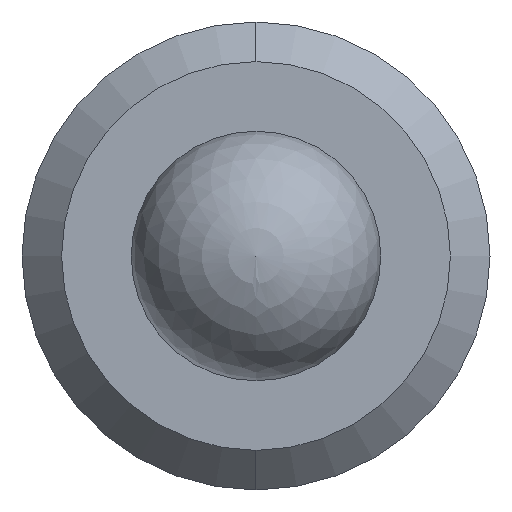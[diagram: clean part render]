
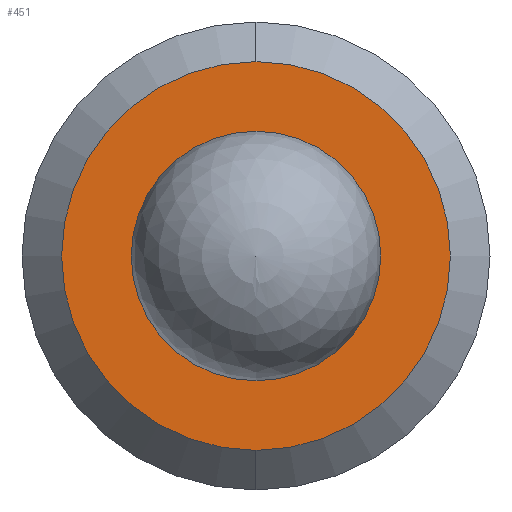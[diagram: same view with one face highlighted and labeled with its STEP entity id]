
A CAD part, left-side view. The second image highlights one B-rep face of the part: STEP entity #451.
In plain terms, the highlighted planar face has unit normal (-1, 0, 0).
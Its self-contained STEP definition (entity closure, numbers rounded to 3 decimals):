
#25 = AXIS2_PLACEMENT_3D ( 'NONE', #380, #351, #410 ) ;
#30 = FACE_BOUND ( 'NONE', #167, .T. ) ;
#67 = FACE_OUTER_BOUND ( 'NONE', #470, .T. ) ;
#82 = CARTESIAN_POINT ( 'NONE',  ( 0., 0., -0.8 ) ) ;
#85 = EDGE_CURVE ( 'NONE', #482, #173, #440, .T. ) ;
#95 = DIRECTION ( 'NONE',  ( -1., 0., 0. ) ) ;
#98 = CARTESIAN_POINT ( 'NONE',  ( 0., 0., 0. ) ) ;
#135 = CARTESIAN_POINT ( 'NONE',  ( 0., 0., 0.8 ) ) ;
#146 = ORIENTED_EDGE ( 'NONE', *, *, #338, .F. ) ;
#147 = ORIENTED_EDGE ( 'NONE', *, *, #85, .F. ) ;
#150 = AXIS2_PLACEMENT_3D ( 'NONE', #98, #95, #420 ) ;
#156 = ORIENTED_EDGE ( 'NONE', *, *, #314, .T. ) ;
#158 = ORIENTED_EDGE ( 'NONE', *, *, #348, .T. ) ;
#160 = CARTESIAN_POINT ( 'NONE',  ( 0., 0., 0. ) ) ;
#167 = EDGE_LOOP ( 'NONE', ( #146, #147 ) ) ;
#173 = VERTEX_POINT ( 'NONE', #135 ) ;
#174 = DIRECTION ( 'NONE',  ( -1., 0., 0. ) ) ;
#176 = AXIS2_PLACEMENT_3D ( 'NONE', #217, #235, #221 ) ;
#179 = CARTESIAN_POINT ( 'NONE',  ( 0., 0., 1.246 ) ) ;
#194 = AXIS2_PLACEMENT_3D ( 'NONE', #387, #385, #503 ) ;
#210 = VERTEX_POINT ( 'NONE', #179 ) ;
#217 = CARTESIAN_POINT ( 'NONE',  ( 0., 0., 0. ) ) ;
#221 = DIRECTION ( 'NONE',  ( 0., 0., 1. ) ) ;
#235 = DIRECTION ( 'NONE',  ( -1., 0., 0. ) ) ;
#246 = CIRCLE ( 'NONE', #150, 1.246 ) ;
#264 = DIRECTION ( 'NONE',  ( 0., 0., 1. ) ) ;
#291 = AXIS2_PLACEMENT_3D ( 'NONE', #160, #174, #264 ) ;
#314 = EDGE_CURVE ( 'NONE', #578, #210, #331, .T. ) ;
#319 = CIRCLE ( 'NONE', #176, 0.8 ) ;
#331 = CIRCLE ( 'NONE', #194, 1.246 ) ;
#338 = EDGE_CURVE ( 'NONE', #173, #482, #319, .T. ) ;
#348 = EDGE_CURVE ( 'NONE', #210, #578, #246, .T. ) ;
#351 = DIRECTION ( 'NONE',  ( 1., 0., 0. ) ) ;
#355 = PLANE ( 'NONE',  #25 ) ;
#380 = CARTESIAN_POINT ( 'NONE',  ( 0., 0., 0. ) ) ;
#385 = DIRECTION ( 'NONE',  ( -1., 0., 0. ) ) ;
#387 = CARTESIAN_POINT ( 'NONE',  ( 0., 0., 0. ) ) ;
#410 = DIRECTION ( 'NONE',  ( 0., 0., -1. ) ) ;
#420 = DIRECTION ( 'NONE',  ( 0., 0., -1. ) ) ;
#440 = CIRCLE ( 'NONE', #291, 0.8 ) ;
#451 = ADVANCED_FACE ( 'NONE', ( #30, #67 ), #355, .F. ) ;
#470 = EDGE_LOOP ( 'NONE', ( #156, #158 ) ) ;
#480 = CARTESIAN_POINT ( 'NONE',  ( 0., 0., -1.246 ) ) ;
#482 = VERTEX_POINT ( 'NONE', #82 ) ;
#503 = DIRECTION ( 'NONE',  ( 0., 0., -1. ) ) ;
#578 = VERTEX_POINT ( 'NONE', #480 ) ;
